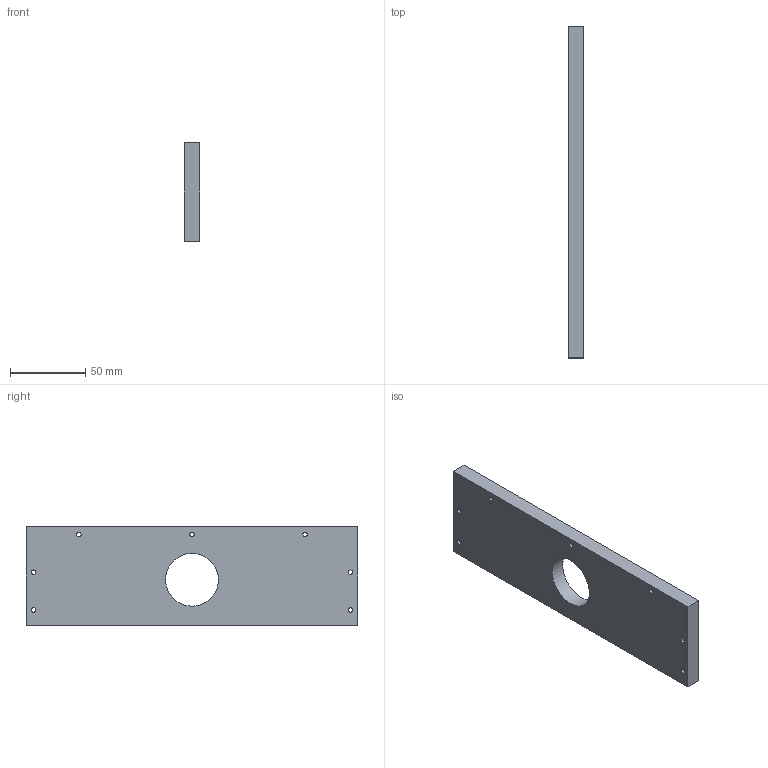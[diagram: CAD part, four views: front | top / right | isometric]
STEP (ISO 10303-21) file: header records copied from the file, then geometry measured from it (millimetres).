
FILE_DESCRIPTION(('CATIA V5 STEP Exchange'),'2;1');
FILE_NAME('E:\CNC\CNC_REV3_PLAN_FINAL\FICHIERS POUR USINAGE DES PIECES PORTIQUE\PIECES_AVEC_TROU\AxeZ_Top.stp','2016-09-06T20:13:20+00:00',('none'),('none'),'CATIA Version 5 Release 19 SP 2 (IN-10)','CATIA V5 STEP AP203','none');
FILE_SCHEMA(('CONFIG_CONTROL_DESIGN'));
Length unit declared in the file: millimetre
Products named in the file (1): AxeZ_Haut
Bounding box: 10 x 220 x 65 mm (x, y, z)
Volume: 132884.1 mm3; surface area: 34036.1 mm2
Topology: 1 solids, 1 shells, 22 faces, 60 edges, 40 vertices
Faces by surface type: cylinder 16, plane 6
Entity records: 718 total; most frequent: ORIENTED_EDGE 120, CARTESIAN_POINT 115, DIRECTION 88, EDGE_CURVE 60, AXIS2_PLACEMENT_3D 47, VERTEX_POINT 40, EDGE_LOOP 38, CIRCLE 32
